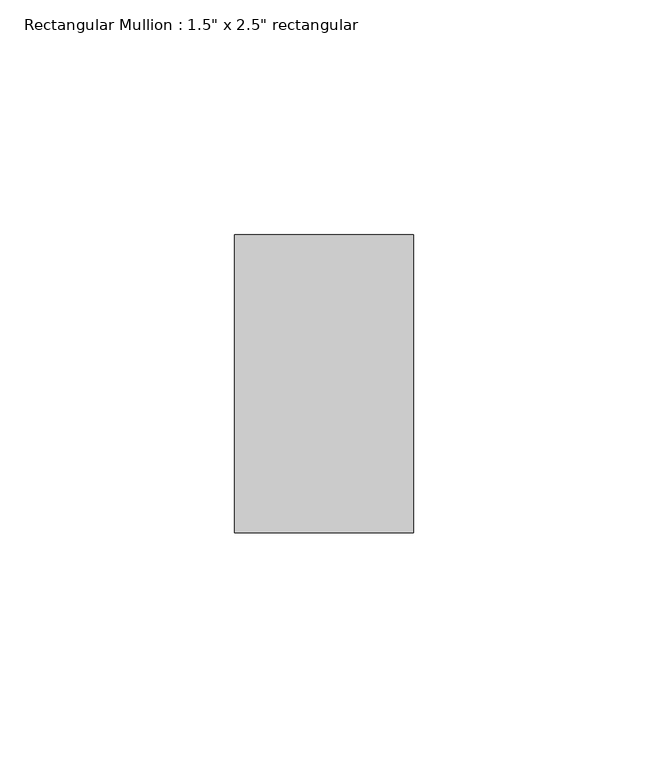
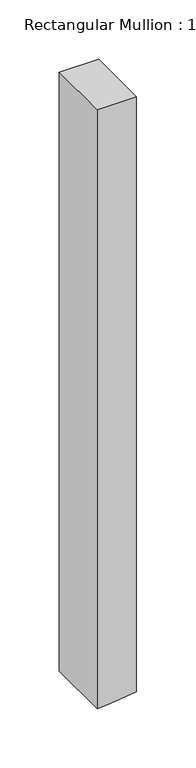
"""IFC4 building model written with IfcOpenShell, lengths in millimetres: member geometry."""

from ifc_helpers import new_model, si_unit, frame, origin, place, context, project, spatial, polyline, outline, extrude, source, transform, mapped, element, save


def member_68f25307(model_context):
    return source(origin(), model_context, "Body", "SweptSolid", [
        extrude(outline(polyline([(0.0, 19.05), (0.0, -19.05), (-615.3566606, -19.05), (-614.3554622, -5.9381935), (-611.5687002, 19.05), (0.0, 19.05)])), frame((0.0, -31.75, 0.0), z_axis=(0.0, 1.0, 0.0), x_axis=(0.0, 0.0, 1.0)), (0.0, 0.0, 1.0), 63.5),
    ])


if __name__ == "__main__":
    model = new_model("IFC4")
    model_context = context("Model", 3, world=origin())
    ifc_project = project(units=[si_unit("LENGTHUNIT", "METRE", prefix="MILLI")], contexts=[model_context])
    site = spatial("IfcSite", under=ifc_project)
    building = spatial("IfcBuilding", under=site)
    placement = place(None, origin())
    member_shape = member_68f25307(model_context)
    element("IfcMember", 1, ObjectType="Rectangular Mullion : 1.5\" x 2.5\" rectangular", at=placement, inside=building, context=model_context, shape_type="MappedRepresentation", body=[
        mapped(member_shape, transform((0.0, 0.0, 0.0), x_axis=(1.0, 0.0, 0.0), y_axis=(0.0, 1.0, 0.0), z_axis=(0.0, 0.0, 1.0))),
    ])
    save(model, "model.ifc")
